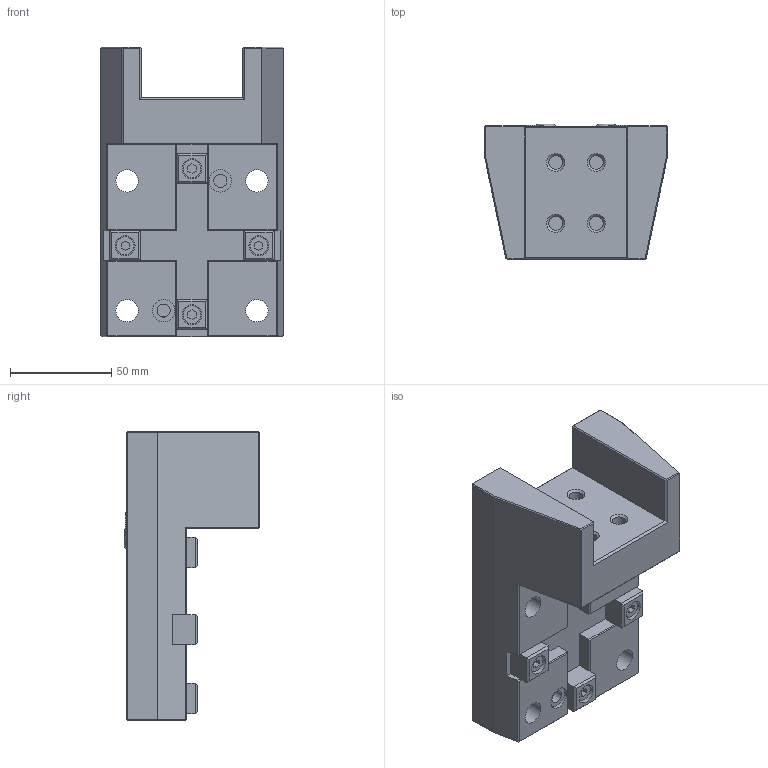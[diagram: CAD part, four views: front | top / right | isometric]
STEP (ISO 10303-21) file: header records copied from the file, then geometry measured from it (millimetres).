
FILE_DESCRIPTION(/* description */ (''),/* implementation_level */ '2;1');
FILE_NAME(/* name */ '',/* time_stamp */ '2025-04-14T11:33:31+03:00',/* author */ ('User'),/* organization */ (''),/* preprocessor_version */ 'ST-DEVELOPER v19.2',/* originating_system */ 'Autodesk Inventor 2024',/* authorisation */ '');
FILE_SCHEMA (('AUTOMOTIVE_DESIGN { 1 0 10303 214 3 1 1 }'));
Length unit declared in the file: millimetre
Products named in the file (1): Держатель токарного 
инструмента BMT55-C8025 , стационарный,
 наружный, радиальный
Bounding box: 90 x 67 x 143 mm (x, y, z)
Volume: 396566.5 mm3; surface area: 64336.8 mm2
Topology: 1 solids, 1 shells, 261 faces, 611 edges, 382 vertices
Faces by surface type: plane 211, cylinder 40, cone 8, torus 2
Full cylindrical faces by diameter (mm): 5.4 x2, 6.5 x2, 6.8 x4, 7.3 x2, 7.5 x2, 8.8 x4, 9.8 x4, 11 x8, 11.5 x2, 12 x2, 17.8 x4
Entity records: 7748 total; most frequent: CARTESIAN_POINT 1313, DIRECTION 1267, ORIENTED_EDGE 1222, EDGE_CURVE 611, LINE 459, VECTOR 459, AXIS2_PLACEMENT_3D 404, VERTEX_POINT 382
